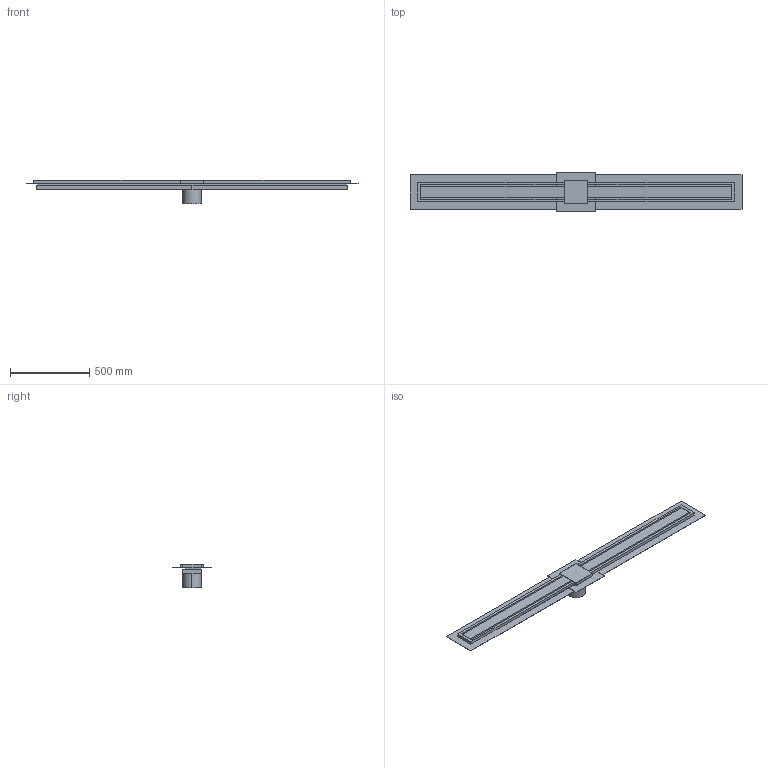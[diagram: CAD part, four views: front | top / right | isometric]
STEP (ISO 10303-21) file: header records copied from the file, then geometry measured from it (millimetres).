
FILE_DESCRIPTION(/* description */ (''),/* implementation_level */ '2;1');
FILE_NAME(/* name */ 'E:\Workspace\resitec\Packs\Kategorie\Entwässerungsrinne\STP\RS770K.18.150Entwässerungsrinne mit Auslaufkasten151mmM-4xKR.s.ipt.stp',/* time_stamp */ '2020-10-04T20:56:12+02:00',/* author */ ('ndmes'),/* organization */ (''),/* preprocessor_version */ 'ST-DEVELOPER v18.1',/* originating_system */ 'Autodesk Inventor 2021',/* authorisation */ '');
FILE_SCHEMA (('AUTOMOTIVE_DESIGN { 1 0 10303 214 3 1 1 }'));
Length unit declared in the file: millimetre
Products named in the file (1): RS770K.18.150Entwässerungsrinne mit Auslaufkasten151mmM-4xKR.s
Bounding box: 2100 x 251 x 150 mm (x, y, z)
Volume: 14770238.7 mm3; surface area: 2657705.3 mm2
Topology: 14 solids, 14 shells, 99 faces, 213 edges, 142 vertices
Faces by surface type: plane 97, cylinder 2
Entity records: 2667 total; most frequent: CARTESIAN_POINT 455, ORIENTED_EDGE 426, DIRECTION 417, EDGE_CURVE 213, LINE 209, VECTOR 209, VERTEX_POINT 142, AXIS2_PLACEMENT_3D 104
